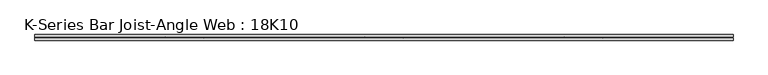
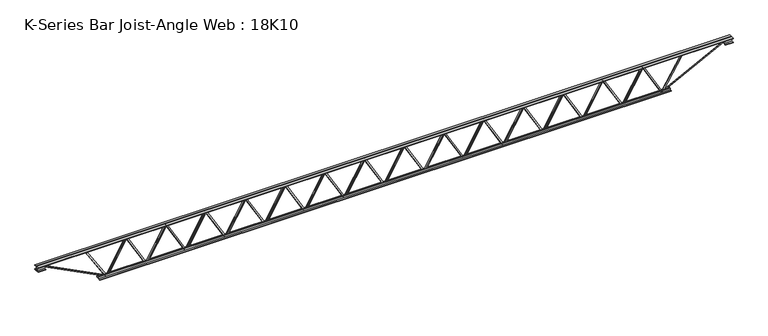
"""IFC4 building model written with IfcOpenShell, lengths in millimetres: beam geometry, K-Series Bar Joist-Angle Web : 18K10."""

from ifc_helpers import new_model, si_unit, frame, origin, place, context, project, spatial, polyline, outline, extrude, faceted_brep, source, transform, mapped, element, save


def k_series_bar_joist_angle_web_18k10_8fa36c72(model_context):
    return source(origin(), model_context, "Body", "SolidModel", [
        extrude(outline(polyline([(-4.75, 4.7624999), (-4.75, 0.0), (-17.45, 0.0), (-17.45, 4.7624999), (-4.75, 4.7624999)])), frame((3103.4571837, 0.0, -190.4), z_axis=(-0.4990982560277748, 0.0, 0.8665454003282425), x_axis=(0.0, -1.0, 0.0)), (0.0, 0.0, 1.0), 439.4461039),
        extrude(outline(polyline([(-225.325, 3135.4285714), (-206.275, 3135.4285714), (-206.275, 3134.5844446), (225.325, 2885.9987304), (225.325, 2867.7928571), (206.275, 2867.7928571), (206.275, 2874.9869839), (-225.325, 3123.5726982), (-225.325, 3135.4285714)])), frame((0.0, 0.0, 0.0), z_axis=(0.0, 1.0, 0.0), x_axis=(0.0, 0.0, 1.0)), (0.0, 0.0, 1.0), 4.75),
        faceted_brep([(2612.8571429, 0.0, -206.275), (2612.8571429, 0.0, -225.325), (2612.8571429, -4.75, -225.325), (2612.8571429, -4.75, -206.275), (2613.7012696, 0.0, -206.275), (2862.2869839, 0.0, 225.325), (2880.4928571, 0.0, 225.325), (2880.4928571, 0.0, 206.275), (2873.2987304, 0.0, 206.275), (2624.7130161, 0.0, -225.325), (2624.7130161, -4.75, -225.325), (2644.8285306, -4.75, -190.4), (2640.7016081, -4.75, -188.0230446), (2860.0283922, -4.75, 192.7769554), (2864.1553147, -4.75, 190.4), (2873.2987304, -4.75, 206.275), (2880.4928571, -4.75, 206.275), (2880.4928571, -4.75, 225.325), (2862.2869839, -4.75, 225.325), (2613.7012696, -4.75, -206.275), (2864.1553147, -17.4625, 190.4), (2644.8285306, -17.4625, -190.4), (2640.7016081, -17.4625, -188.0230446), (2860.0283922, -17.4625, 192.7769554)], [[[0, 1, 2, 3]], [[1, 0, 4, 5, 6, 7, 8, 9]], [[2, 1, 9, 10]], [[3, 2, 10, 11, 12, 13, 14, 15, 16, 17, 18, 19]], [[0, 3, 19, 4]], [[9, 8, 15, 14, 20, 21, 11, 10]], [[5, 4, 19, 18]], [[7, 6, 17, 16]], [[8, 7, 16, 15]], [[6, 5, 18, 17]], [[21, 22, 12, 11]], [[20, 14, 13, 23]], [[22, 21, 20, 23]], [[12, 22, 23, 13]]]),
        extrude(outline(polyline([(-4.75, 4.7625), (-4.75, 0.0), (-17.45, 0.0), (-17.45, 4.7625), (-4.75, 4.7625)])), frame((2580.8857551, 0.0, -190.4), z_axis=(-0.4990982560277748, 0.0, 0.8665454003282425), x_axis=(0.0, -1.0, 0.0)), (0.0, 0.0, 1.0), 439.4461039),
        extrude(outline(polyline([(-225.325, 2612.8571429), (-206.275, 2612.8571429), (-206.275, 2612.0130161), (225.325, 2363.4273018), (225.325, 2345.2214286), (206.275, 2345.2214286), (206.275, 2352.4155554), (-225.325, 2601.0012696), (-225.325, 2612.8571429)])), frame((0.0, 0.0, 0.0), z_axis=(0.0, 1.0, 0.0), x_axis=(0.0, 0.0, 1.0)), (0.0, 0.0, 1.0), 4.75),
        faceted_brep([(2090.2857143, 0.0, -206.275), (2090.2857143, 0.0, -225.325), (2090.2857143, -4.75, -225.325), (2090.2857143, -4.75, -206.275), (2091.1298411, 0.0, -206.275), (2339.7155554, 0.0, 225.325), (2357.9214286, 0.0, 225.325), (2357.9214286, 0.0, 206.275), (2350.7273018, 0.0, 206.275), (2102.1415875, 0.0, -225.325), (2102.1415875, -4.75, -225.325), (2122.257102, -4.75, -190.4), (2118.1301796, -4.75, -188.0230446), (2337.4569636, -4.75, 192.7769554), (2341.5838861, -4.75, 190.4), (2350.7273018, -4.75, 206.275), (2357.9214286, -4.75, 206.275), (2357.9214286, -4.75, 225.325), (2339.7155554, -4.75, 225.325), (2091.1298411, -4.75, -206.275), (2341.5838861, -17.4625, 190.4), (2122.257102, -17.4625, -190.4), (2118.1301796, -17.4625, -188.0230446), (2337.4569636, -17.4625, 192.7769554)], [[[0, 1, 2, 3]], [[1, 0, 4, 5, 6, 7, 8, 9]], [[2, 1, 9, 10]], [[3, 2, 10, 11, 12, 13, 14, 15, 16, 17, 18, 19]], [[0, 3, 19, 4]], [[9, 8, 15, 14, 20, 21, 11, 10]], [[5, 4, 19, 18]], [[7, 6, 17, 16]], [[8, 7, 16, 15]], [[6, 5, 18, 17]], [[21, 22, 12, 11]], [[20, 14, 13, 23]], [[22, 21, 20, 23]], [[12, 22, 23, 13]]]),
        extrude(outline(polyline([(-4.75, 4.7625), (-4.75, 0.0), (-17.45, 0.0), (-17.45, 4.7625), (-4.75, 4.7625)])), frame((2058.3143265, 0.0, -190.4), z_axis=(-0.4990982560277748, 0.0, 0.8665454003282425), x_axis=(0.0, -1.0, 0.0)), (0.0, 0.0, 1.0), 439.4461039),
        extrude(outline(polyline([(-225.325, 2090.2857143), (-206.275, 2090.2857143), (-206.275, 2089.4415875), (225.325, 1840.8558732), (225.325, 1822.65), (206.275, 1822.65), (206.275, 1829.8441268), (-225.325, 2078.4298411), (-225.325, 2090.2857143)])), frame((0.0, 0.0, 0.0), z_axis=(0.0, 1.0, 0.0), x_axis=(0.0, 0.0, 1.0)), (0.0, 0.0, 1.0), 4.75),
        faceted_brep([(1567.7142857, 0.0, -206.275), (1567.7142857, 0.0, -225.325), (1567.7142857, -4.75, -225.325), (1567.7142857, -4.75, -206.275), (1568.5584125, 0.0, -206.275), (1817.1441268, 0.0, 225.325), (1835.35, 0.0, 225.325), (1835.35, 0.0, 206.275), (1828.1558732, 0.0, 206.275), (1579.5701589, 0.0, -225.325), (1579.5701589, -4.75, -225.325), (1599.6856735, -4.75, -190.4), (1595.558751, -4.75, -188.0230446), (1814.8855351, -4.75, 192.7769554), (1819.0124575, -4.75, 190.4), (1828.1558732, -4.75, 206.275), (1835.35, -4.75, 206.275), (1835.35, -4.75, 225.325), (1817.1441268, -4.75, 225.325), (1568.5584125, -4.75, -206.275), (1819.0124575, -17.4625, 190.4), (1599.6856735, -17.4625, -190.4), (1595.558751, -17.4625, -188.0230446), (1814.8855351, -17.4625, 192.7769554)], [[[0, 1, 2, 3]], [[1, 0, 4, 5, 6, 7, 8, 9]], [[2, 1, 9, 10]], [[3, 2, 10, 11, 12, 13, 14, 15, 16, 17, 18, 19]], [[0, 3, 19, 4]], [[9, 8, 15, 14, 20, 21, 11, 10]], [[5, 4, 19, 18]], [[7, 6, 17, 16]], [[8, 7, 16, 15]], [[6, 5, 18, 17]], [[21, 22, 12, 11]], [[20, 14, 13, 23]], [[22, 21, 20, 23]], [[12, 22, 23, 13]]]),
        extrude(outline(polyline([(-4.75, 4.7624999), (-4.75, 0.0), (-17.45, 0.0), (-17.45, 4.7624999), (-4.75, 4.7624999)])), frame((1535.742898, 0.0, -190.4), z_axis=(-0.4990982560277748, 0.0, 0.8665454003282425), x_axis=(0.0, -1.0, 0.0)), (0.0, 0.0, 1.0), 439.4461039),
        extrude(outline(polyline([(-225.325, 1567.7142857), (-206.275, 1567.7142857), (-206.275, 1566.8701589), (225.325, 1318.2844446), (225.325, 1300.0785714), (206.275, 1300.0785714), (206.275, 1307.2726982), (-225.325, 1555.8584125), (-225.325, 1567.7142857)])), frame((0.0, 0.0, 0.0), z_axis=(0.0, 1.0, 0.0), x_axis=(0.0, 0.0, 1.0)), (0.0, 0.0, 1.0), 4.75),
        faceted_brep([(1045.1428571, 0.0, -206.275), (1045.1428571, 0.0, -225.325), (1045.1428571, -4.75, -225.325), (1045.1428571, -4.75, -206.275), (1045.9869839, 0.0, -206.275), (1294.5726982, 0.0, 225.325), (1312.7785714, 0.0, 225.325), (1312.7785714, 0.0, 206.275), (1305.5844446, 0.0, 206.275), (1056.9987304, 0.0, -225.325), (1056.9987304, -4.75, -225.325), (1077.1142449, -4.75, -190.4), (1072.9873224, -4.75, -188.0230446), (1292.3141065, -4.75, 192.7769554), (1296.441029, -4.75, 190.4), (1305.5844446, -4.75, 206.275), (1312.7785714, -4.75, 206.275), (1312.7785714, -4.75, 225.325), (1294.5726982, -4.75, 225.325), (1045.9869839, -4.75, -206.275), (1296.441029, -17.4625, 190.4), (1077.1142449, -17.4625, -190.4), (1072.9873224, -17.4625, -188.0230446), (1292.3141065, -17.4625, 192.7769554)], [[[0, 1, 2, 3]], [[1, 0, 4, 5, 6, 7, 8, 9]], [[2, 1, 9, 10]], [[3, 2, 10, 11, 12, 13, 14, 15, 16, 17, 18, 19]], [[0, 3, 19, 4]], [[9, 8, 15, 14, 20, 21, 11, 10]], [[5, 4, 19, 18]], [[7, 6, 17, 16]], [[8, 7, 16, 15]], [[6, 5, 18, 17]], [[21, 22, 12, 11]], [[20, 14, 13, 23]], [[22, 21, 20, 23]], [[12, 22, 23, 13]]]),
        extrude(outline(polyline([(-4.75, 4.7625), (-4.75, 0.0), (-17.45, 0.0), (-17.45, 4.7625), (-4.75, 4.7625)])), frame((1013.1714694, 0.0, -190.4), z_axis=(-0.4990982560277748, 0.0, 0.8665454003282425), x_axis=(0.0, -1.0, 0.0)), (0.0, 0.0, 1.0), 439.4461039),
        extrude(outline(polyline([(-225.325, 1045.1428571), (-206.275, 1045.1428571), (-206.275, 1044.2987304), (225.325, 795.7130161), (225.325, 777.5071429), (206.275, 777.5071429), (206.275, 784.7012696), (-225.325, 1033.2869839), (-225.325, 1045.1428571)])), frame((0.0, 0.0, 0.0), z_axis=(0.0, 1.0, 0.0), x_axis=(0.0, 0.0, 1.0)), (0.0, 0.0, 1.0), 4.75),
        faceted_brep([(522.5714286, 0.0, -206.275), (522.5714286, 0.0, -225.325), (522.5714286, -4.75, -225.325), (522.5714286, -4.75, -206.275), (523.4155554, 0.0, -206.275), (772.0012696, 0.0, 225.325), (790.2071429, 0.0, 225.325), (790.2071429, 0.0, 206.275), (783.0130161, 0.0, 206.275), (534.4273018, 0.0, -225.325), (534.4273018, -4.75, -225.325), (554.5428163, -4.75, -190.4), (550.4158939, -4.75, -188.0230446), (769.7426779, -4.75, 192.7769554), (773.8696004, -4.75, 190.4), (783.0130161, -4.75, 206.275), (790.2071429, -4.75, 206.275), (790.2071429, -4.75, 225.325), (772.0012696, -4.75, 225.325), (523.4155554, -4.75, -206.275), (773.8696004, -17.4625, 190.4), (554.5428163, -17.4625, -190.4), (550.4158939, -17.4625, -188.0230446), (769.7426779, -17.4625, 192.7769554)], [[[0, 1, 2, 3]], [[1, 0, 4, 5, 6, 7, 8, 9]], [[2, 1, 9, 10]], [[3, 2, 10, 11, 12, 13, 14, 15, 16, 17, 18, 19]], [[0, 3, 19, 4]], [[9, 8, 15, 14, 20, 21, 11, 10]], [[5, 4, 19, 18]], [[7, 6, 17, 16]], [[8, 7, 16, 15]], [[6, 5, 18, 17]], [[21, 22, 12, 11]], [[20, 14, 13, 23]], [[22, 21, 20, 23]], [[12, 22, 23, 13]]]),
        extrude(outline(polyline([(-4.75, 4.7625), (-4.75, 0.0), (-17.45, 0.0), (-17.45, 4.7625), (-4.75, 4.7625)])), frame((490.6000408, 0.0, -190.4), z_axis=(-0.4990982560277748, 0.0, 0.8665454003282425), x_axis=(0.0, -1.0, 0.0)), (0.0, 0.0, 1.0), 439.4461039),
        extrude(outline(polyline([(-225.325, 522.5714286), (-206.275, 522.5714286), (-206.275, 521.7273018), (225.325, 273.1415875), (225.325, 254.9357143), (206.275, 254.9357143), (206.275, 262.1298411), (-225.325, 510.7155554), (-225.325, 522.5714286)])), frame((0.0, 0.0, 0.0), z_axis=(0.0, 1.0, 0.0), x_axis=(0.0, 0.0, 1.0)), (0.0, 0.0, 1.0), 4.75),
        faceted_brep([(0.0, 0.0, -206.275), (0.0, 0.0, -225.325), (0.0, -4.75, -225.325), (0.0, -4.75, -206.275), (0.8441268, 0.0, -206.275), (249.4298411, 0.0, 225.325), (267.6357143, 0.0, 225.325), (267.6357143, 0.0, 206.275), (260.4415875, 0.0, 206.275), (11.8558732, 0.0, -225.325), (11.8558732, -4.75, -225.325), (31.9713877, -4.75, -190.4), (27.8444653, -4.75, -188.0230446), (247.1712493, -4.75, 192.7769554), (251.2981718, -4.75, 190.4), (260.4415875, -4.75, 206.275), (267.6357143, -4.75, 206.275), (267.6357143, -4.75, 225.325), (249.4298411, -4.75, 225.325), (0.8441268, -4.75, -206.275), (251.2981718, -17.4625, 190.4), (31.9713877, -17.4625, -190.4), (27.8444653, -17.4625, -188.0230446), (247.1712493, -17.4625, 192.7769554)], [[[0, 1, 2, 3]], [[1, 0, 4, 5, 6, 7, 8, 9]], [[2, 1, 9, 10]], [[3, 2, 10, 11, 12, 13, 14, 15, 16, 17, 18, 19]], [[0, 3, 19, 4]], [[9, 8, 15, 14, 20, 21, 11, 10]], [[5, 4, 19, 18]], [[7, 6, 17, 16]], [[8, 7, 16, 15]], [[6, 5, 18, 17]], [[21, 22, 12, 11]], [[20, 14, 13, 23]], [[22, 21, 20, 23]], [[12, 22, 23, 13]]]),
        extrude(outline(polyline([(-4.75, 4.7624999), (-4.75, 0.0), (-17.45, 0.0), (-17.45, 4.7624999), (-4.75, 4.7624999)])), frame((-31.9713877, 0.0, -190.4), z_axis=(-0.4990982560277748, 0.0, 0.8665454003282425), x_axis=(0.0, -1.0, 0.0)), (0.0, 0.0, 1.0), 439.4461039),
        extrude(outline(polyline([(-225.325, 0.0), (-206.275, 0.0), (-206.275, -0.8441268), (225.325, -249.4298411), (225.325, -267.6357143), (206.275, -267.6357143), (206.275, -260.4415875), (-225.325, -11.8558732), (-225.325, 0.0)])), frame((0.0, 0.0, 0.0), z_axis=(0.0, 1.0, 0.0), x_axis=(0.0, 0.0, 1.0)), (0.0, 0.0, 1.0), 4.75),
        faceted_brep([(-522.5714286, 0.0, -206.275), (-522.5714286, 0.0, -225.325), (-522.5714286, -4.75, -225.325), (-522.5714286, -4.75, -206.275), (-521.7273018, 0.0, -206.275), (-273.1415875, 0.0, 225.325), (-254.9357143, 0.0, 225.325), (-254.9357143, 0.0, 206.275), (-262.1298411, 0.0, 206.275), (-510.7155554, 0.0, -225.325), (-510.7155554, -4.75, -225.325), (-490.6000408, -4.75, -190.4), (-494.7269633, -4.75, -188.0230446), (-275.4001792, -4.75, 192.7769554), (-271.2732568, -4.75, 190.4), (-262.1298411, -4.75, 206.275), (-254.9357143, -4.75, 206.275), (-254.9357143, -4.75, 225.325), (-273.1415875, -4.75, 225.325), (-521.7273018, -4.75, -206.275), (-271.2732568, -17.4625, 190.4), (-490.6000408, -17.4625, -190.4), (-494.7269633, -17.4625, -188.0230446), (-275.4001792, -17.4625, 192.7769554)], [[[0, 1, 2, 3]], [[1, 0, 4, 5, 6, 7, 8, 9]], [[2, 1, 9, 10]], [[3, 2, 10, 11, 12, 13, 14, 15, 16, 17, 18, 19]], [[0, 3, 19, 4]], [[9, 8, 15, 14, 20, 21, 11, 10]], [[5, 4, 19, 18]], [[7, 6, 17, 16]], [[8, 7, 16, 15]], [[6, 5, 18, 17]], [[21, 22, 12, 11]], [[20, 14, 13, 23]], [[22, 21, 20, 23]], [[12, 22, 23, 13]]]),
        extrude(outline(polyline([(-4.75, 4.7624999), (-4.75, 0.0), (-17.45, 0.0), (-17.45, 4.7624999), (-4.75, 4.7624999)])), frame((-554.5428163, 0.0, -190.4), z_axis=(-0.4990982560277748, 0.0, 0.8665454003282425), x_axis=(0.0, -1.0, 0.0)), (0.0, 0.0, 1.0), 439.4461039),
        extrude(outline(polyline([(-225.325, -522.5714286), (-206.275, -522.5714286), (-206.275, -523.4155554), (225.325, -772.0012696), (225.325, -790.2071429), (206.275, -790.2071429), (206.275, -783.0130161), (-225.325, -534.4273018), (-225.325, -522.5714286)])), frame((0.0, 0.0, 0.0), z_axis=(0.0, 1.0, 0.0), x_axis=(0.0, 0.0, 1.0)), (0.0, 0.0, 1.0), 4.75),
        faceted_brep([(-1045.1428571, 0.0, -206.275), (-1045.1428571, 0.0, -225.325), (-1045.1428571, -4.75, -225.325), (-1045.1428571, -4.75, -206.275), (-1044.2987304, 0.0, -206.275), (-795.7130161, 0.0, 225.325), (-777.5071429, 0.0, 225.325), (-777.5071429, 0.0, 206.275), (-784.7012696, 0.0, 206.275), (-1033.2869839, 0.0, -225.325), (-1033.2869839, -4.75, -225.325), (-1013.1714694, -4.75, -190.4), (-1017.2983919, -4.75, -188.0230446), (-797.9716078, -4.75, 192.7769554), (-793.8446853, -4.75, 190.4), (-784.7012696, -4.75, 206.275), (-777.5071429, -4.75, 206.275), (-777.5071429, -4.75, 225.325), (-795.7130161, -4.75, 225.325), (-1044.2987304, -4.75, -206.275), (-793.8446853, -17.4625, 190.4), (-1013.1714694, -17.4625, -190.4), (-1017.2983919, -17.4625, -188.0230446), (-797.9716078, -17.4625, 192.7769554)], [[[0, 1, 2, 3]], [[1, 0, 4, 5, 6, 7, 8, 9]], [[2, 1, 9, 10]], [[3, 2, 10, 11, 12, 13, 14, 15, 16, 17, 18, 19]], [[0, 3, 19, 4]], [[9, 8, 15, 14, 20, 21, 11, 10]], [[5, 4, 19, 18]], [[7, 6, 17, 16]], [[8, 7, 16, 15]], [[6, 5, 18, 17]], [[21, 22, 12, 11]], [[20, 14, 13, 23]], [[22, 21, 20, 23]], [[12, 22, 23, 13]]]),
        extrude(outline(polyline([(-4.75, 4.7625), (-4.75, 0.0), (-17.45, 0.0), (-17.45, 4.7625), (-4.75, 4.7625)])), frame((-1077.1142449, 0.0, -190.4), z_axis=(-0.4990982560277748, 0.0, 0.8665454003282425), x_axis=(0.0, -1.0, 0.0)), (0.0, 0.0, 1.0), 439.4461039),
        extrude(outline(polyline([(-225.325, -1045.1428571), (-206.275, -1045.1428571), (-206.275, -1045.9869839), (225.325, -1294.5726982), (225.325, -1312.7785714), (206.275, -1312.7785714), (206.275, -1305.5844446), (-225.325, -1056.9987304), (-225.325, -1045.1428571)])), frame((0.0, 0.0, 0.0), z_axis=(0.0, 1.0, 0.0), x_axis=(0.0, 0.0, 1.0)), (0.0, 0.0, 1.0), 4.75),
        faceted_brep([(-1567.7142857, 0.0, -206.275), (-1567.7142857, 0.0, -225.325), (-1567.7142857, -4.75, -225.325), (-1567.7142857, -4.75, -206.275), (-1566.8701589, 0.0, -206.275), (-1318.2844446, 0.0, 225.325), (-1300.0785714, 0.0, 225.325), (-1300.0785714, 0.0, 206.275), (-1307.2726982, 0.0, 206.275), (-1555.8584125, 0.0, -225.325), (-1555.8584125, -4.75, -225.325), (-1535.742898, -4.75, -190.4), (-1539.8698204, -4.75, -188.0230446), (-1320.5430364, -4.75, 192.7769554), (-1316.4161139, -4.75, 190.4), (-1307.2726982, -4.75, 206.275), (-1300.0785714, -4.75, 206.275), (-1300.0785714, -4.75, 225.325), (-1318.2844446, -4.75, 225.325), (-1566.8701589, -4.75, -206.275), (-1316.4161139, -17.4625, 190.4), (-1535.742898, -17.4625, -190.4), (-1539.8698204, -17.4625, -188.0230446), (-1320.5430364, -17.4625, 192.7769554)], [[[0, 1, 2, 3]], [[1, 0, 4, 5, 6, 7, 8, 9]], [[2, 1, 9, 10]], [[3, 2, 10, 11, 12, 13, 14, 15, 16, 17, 18, 19]], [[0, 3, 19, 4]], [[9, 8, 15, 14, 20, 21, 11, 10]], [[5, 4, 19, 18]], [[7, 6, 17, 16]], [[8, 7, 16, 15]], [[6, 5, 18, 17]], [[21, 22, 12, 11]], [[20, 14, 13, 23]], [[22, 21, 20, 23]], [[12, 22, 23, 13]]]),
        extrude(outline(polyline([(-4.75, 4.7625), (-4.75, 0.0), (-17.45, 0.0), (-17.45, 4.7625), (-4.75, 4.7625)])), frame((-1599.6856735, 0.0, -190.4), z_axis=(-0.4990982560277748, 0.0, 0.8665454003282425), x_axis=(0.0, -1.0, 0.0)), (0.0, 0.0, 1.0), 439.4461039),
        extrude(outline(polyline([(-225.325, -1567.7142857), (-206.275, -1567.7142857), (-206.275, -1568.5584125), (225.325, -1817.1441268), (225.325, -1835.35), (206.275, -1835.35), (206.275, -1828.1558732), (-225.325, -1579.5701589), (-225.325, -1567.7142857)])), frame((0.0, 0.0, 0.0), z_axis=(0.0, 1.0, 0.0), x_axis=(0.0, 0.0, 1.0)), (0.0, 0.0, 1.0), 4.75),
        faceted_brep([(-2090.2857143, 0.0, -206.275), (-2090.2857143, 0.0, -225.325), (-2090.2857143, -4.75, -225.325), (-2090.2857143, -4.75, -206.275), (-2089.4415875, 0.0, -206.275), (-1840.8558732, 0.0, 225.325), (-1822.65, 0.0, 225.325), (-1822.65, 0.0, 206.275), (-1829.8441268, 0.0, 206.275), (-2078.4298411, 0.0, -225.325), (-2078.4298411, -4.75, -225.325), (-2058.3143265, -4.75, -190.4), (-2062.441249, -4.75, -188.0230446), (-1843.1144649, -4.75, 192.7769554), (-1838.9875425, -4.75, 190.4), (-1829.8441268, -4.75, 206.275), (-1822.65, -4.75, 206.275), (-1822.65, -4.75, 225.325), (-1840.8558732, -4.75, 225.325), (-2089.4415875, -4.75, -206.275), (-1838.9875425, -17.4625, 190.4), (-2058.3143265, -17.4625, -190.4), (-2062.441249, -17.4625, -188.0230446), (-1843.1144649, -17.4625, 192.7769554)], [[[0, 1, 2, 3]], [[1, 0, 4, 5, 6, 7, 8, 9]], [[2, 1, 9, 10]], [[3, 2, 10, 11, 12, 13, 14, 15, 16, 17, 18, 19]], [[0, 3, 19, 4]], [[9, 8, 15, 14, 20, 21, 11, 10]], [[5, 4, 19, 18]], [[7, 6, 17, 16]], [[8, 7, 16, 15]], [[6, 5, 18, 17]], [[21, 22, 12, 11]], [[20, 14, 13, 23]], [[22, 21, 20, 23]], [[12, 22, 23, 13]]]),
        extrude(outline(polyline([(-4.75, 4.7624999), (-4.75, 0.0), (-17.45, 0.0), (-17.45, 4.7624999), (-4.75, 4.7624999)])), frame((-2122.257102, 0.0, -190.4), z_axis=(-0.4990982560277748, 0.0, 0.8665454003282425), x_axis=(0.0, -1.0, 0.0)), (0.0, 0.0, 1.0), 439.4461039),
        extrude(outline(polyline([(-225.325, -2090.2857143), (-206.275, -2090.2857143), (-206.275, -2091.1298411), (225.325, -2339.7155554), (225.325, -2357.9214286), (206.275, -2357.9214286), (206.275, -2350.7273018), (-225.325, -2102.1415875), (-225.325, -2090.2857143)])), frame((0.0, 0.0, 0.0), z_axis=(0.0, 1.0, 0.0), x_axis=(0.0, 0.0, 1.0)), (0.0, 0.0, 1.0), 4.75),
        faceted_brep([(-2612.8571429, 0.0, -206.275), (-2612.8571429, 0.0, -225.325), (-2612.8571429, -4.75, -225.325), (-2612.8571429, -4.75, -206.275), (-2612.0130161, 0.0, -206.275), (-2363.4273018, 0.0, 225.325), (-2345.2214286, 0.0, 225.325), (-2345.2214286, 0.0, 206.275), (-2352.4155554, 0.0, 206.275), (-2601.0012696, 0.0, -225.325), (-2601.0012696, -4.75, -225.325), (-2580.8857551, -4.75, -190.4), (-2585.0126776, -4.75, -188.0230446), (-2365.6858935, -4.75, 192.7769554), (-2361.558971, -4.75, 190.4), (-2352.4155554, -4.75, 206.275), (-2345.2214286, -4.75, 206.275), (-2345.2214286, -4.75, 225.325), (-2363.4273018, -4.75, 225.325), (-2612.0130161, -4.75, -206.275), (-2361.558971, -17.4625, 190.4), (-2580.8857551, -17.4625, -190.4), (-2585.0126776, -17.4625, -188.0230446), (-2365.6858935, -17.4625, 192.7769554)], [[[0, 1, 2, 3]], [[1, 0, 4, 5, 6, 7, 8, 9]], [[2, 1, 9, 10]], [[3, 2, 10, 11, 12, 13, 14, 15, 16, 17, 18, 19]], [[0, 3, 19, 4]], [[9, 8, 15, 14, 20, 21, 11, 10]], [[5, 4, 19, 18]], [[7, 6, 17, 16]], [[8, 7, 16, 15]], [[6, 5, 18, 17]], [[21, 22, 12, 11]], [[20, 14, 13, 23]], [[22, 21, 20, 23]], [[12, 22, 23, 13]]]),
        extrude(outline(polyline([(-4.75, 4.7625), (-4.75, 0.0), (-17.45, 0.0), (-17.45, 4.7625), (-4.75, 4.7625)])), frame((-2644.8285306, 0.0, -190.4), z_axis=(-0.4990982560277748, 0.0, 0.8665454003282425), x_axis=(0.0, -1.0, 0.0)), (0.0, 0.0, 1.0), 439.4461039),
        extrude(outline(polyline([(-225.325, -2612.8571429), (-206.275, -2612.8571429), (-206.275, -2613.7012696), (225.325, -2862.2869839), (225.325, -2880.4928571), (206.275, -2880.4928571), (206.275, -2873.2987304), (-225.325, -2624.7130161), (-225.325, -2612.8571429)])), frame((0.0, 0.0, 0.0), z_axis=(0.0, 1.0, 0.0), x_axis=(0.0, 0.0, 1.0)), (0.0, 0.0, 1.0), 4.75),
        faceted_brep([(-3135.4285714, 0.0, -206.275), (-3135.4285714, 0.0, -225.325), (-3135.4285714, -4.75, -225.325), (-3135.4285714, -4.75, -206.275), (-3134.5844446, 0.0, -206.275), (-2885.9987304, 0.0, 225.325), (-2867.7928571, 0.0, 225.325), (-2867.7928571, 0.0, 206.275), (-2874.9869839, 0.0, 206.275), (-3123.5726982, 0.0, -225.325), (-3123.5726982, -4.75, -225.325), (-3103.4571837, -4.75, -190.4), (-3107.5841061, -4.75, -188.0230446), (-2888.2573221, -4.75, 192.7769554), (-2884.1303996, -4.75, 190.4), (-2874.9869839, -4.75, 206.275), (-2867.7928571, -4.75, 206.275), (-2867.7928571, -4.75, 225.325), (-2885.9987304, -4.75, 225.325), (-3134.5844446, -4.75, -206.275), (-2884.1303996, -17.4625, 190.4), (-3103.4571837, -17.4625, -190.4), (-3107.5841061, -17.4625, -188.0230446), (-2888.2573221, -17.4625, 192.7769554)], [[[0, 1, 2, 3]], [[1, 0, 4, 5, 6, 7, 8, 9]], [[2, 1, 9, 10]], [[3, 2, 10, 11, 12, 13, 14, 15, 16, 17, 18, 19]], [[0, 3, 19, 4]], [[9, 8, 15, 14, 20, 21, 11, 10]], [[5, 4, 19, 18]], [[7, 6, 17, 16]], [[8, 7, 16, 15]], [[6, 5, 18, 17]], [[21, 22, 12, 11]], [[20, 14, 13, 23]], [[22, 21, 20, 23]], [[12, 22, 23, 13]]]),
        extrude(outline(polyline([(-4.75, 4.7624999), (-4.75, 0.0), (-17.45, 0.0), (-17.45, 4.7624999), (-4.75, 4.7624999)])), frame((3626.0286123, 0.0, -190.4), z_axis=(-0.4990982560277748, 0.0, 0.8665454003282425), x_axis=(0.0, -1.0, 0.0)), (0.0, 0.0, 1.0), 439.4461039),
        extrude(outline(polyline([(-225.325, 3658.0), (-206.275, 3658.0), (-206.275, 3657.1558732), (225.325, 3408.5701589), (225.325, 3390.3642857), (206.275, 3390.3642857), (206.275, 3397.5584125), (-225.325, 3646.1441268), (-225.325, 3658.0)])), frame((0.0, 0.0, 0.0), z_axis=(0.0, 1.0, 0.0), x_axis=(0.0, 0.0, 1.0)), (0.0, 0.0, 1.0), 4.75),
        faceted_brep([(3135.4285714, 0.0, -206.275), (3135.4285714, 0.0, -225.325), (3135.4285714, -4.75, -225.325), (3135.4285714, -4.75, -206.275), (3136.2726982, 0.0, -206.275), (3384.8584125, 0.0, 225.325), (3403.0642857, 0.0, 225.325), (3403.0642857, 0.0, 206.275), (3395.8701589, 0.0, 206.275), (3147.2844446, 0.0, -225.325), (3147.2844446, -4.75, -225.325), (3167.3999592, -4.75, -190.4), (3163.2730367, -4.75, -188.0230446), (3382.5998208, -4.75, 192.7769554), (3386.7267432, -4.75, 190.4), (3395.8701589, -4.75, 206.275), (3403.0642857, -4.75, 206.275), (3403.0642857, -4.75, 225.325), (3384.8584125, -4.75, 225.325), (3136.2726982, -4.75, -206.275), (3386.7267432, -17.4625, 190.4), (3167.3999592, -17.4625, -190.4), (3163.2730367, -17.4625, -188.0230446), (3382.5998208, -17.4625, 192.7769554)], [[[0, 1, 2, 3]], [[1, 0, 4, 5, 6, 7, 8, 9]], [[2, 1, 9, 10]], [[3, 2, 10, 11, 12, 13, 14, 15, 16, 17, 18, 19]], [[0, 3, 19, 4]], [[9, 8, 15, 14, 20, 21, 11, 10]], [[5, 4, 19, 18]], [[7, 6, 17, 16]], [[8, 7, 16, 15]], [[6, 5, 18, 17]], [[21, 22, 12, 11]], [[20, 14, 13, 23]], [[22, 21, 20, 23]], [[12, 22, 23, 13]]]),
        extrude(outline(polyline([(-4.75, 4.7625), (-4.75, 0.0), (-17.45, 0.0), (-17.45, 4.7625), (-4.75, 4.7625)])), frame((-3167.3999592, 0.0, -190.4), z_axis=(-0.4990982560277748, 0.0, 0.8665454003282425), x_axis=(0.0, -1.0, 0.0)), (0.0, 0.0, 1.0), 439.4461039),
        extrude(outline(polyline([(-225.325, -3135.4285714), (-206.275, -3135.4285714), (-206.275, -3136.2726982), (225.325, -3384.8584125), (225.325, -3403.0642857), (206.275, -3403.0642857), (206.275, -3395.8701589), (-225.325, -3147.2844446), (-225.325, -3135.4285714)])), frame((0.0, 0.0, 0.0), z_axis=(0.0, 1.0, 0.0), x_axis=(0.0, 0.0, 1.0)), (0.0, 0.0, 1.0), 4.75),
        faceted_brep([(-3658.0, 0.0, -206.275), (-3658.0, 0.0, -225.325), (-3658.0, -4.75, -225.325), (-3658.0, -4.75, -206.275), (-3657.1558732, 0.0, -206.275), (-3408.5701589, 0.0, 225.325), (-3390.3642857, 0.0, 225.325), (-3390.3642857, 0.0, 206.275), (-3397.5584125, 0.0, 206.275), (-3646.1441268, 0.0, -225.325), (-3646.1441268, -4.75, -225.325), (-3626.0286123, -4.75, -190.4), (-3630.1555347, -4.75, -188.0230446), (-3410.8287507, -4.75, 192.7769554), (-3406.7018282, -4.75, 190.4), (-3397.5584125, -4.75, 206.275), (-3390.3642857, -4.75, 206.275), (-3390.3642857, -4.75, 225.325), (-3408.5701589, -4.75, 225.325), (-3657.1558732, -4.75, -206.275), (-3406.7018282, -17.4625, 190.4), (-3626.0286123, -17.4625, -190.4), (-3630.1555347, -17.4625, -188.0230446), (-3410.8287507, -17.4625, 192.7769554)], [[[0, 1, 2, 3]], [[1, 0, 4, 5, 6, 7, 8, 9]], [[2, 1, 9, 10]], [[3, 2, 10, 11, 12, 13, 14, 15, 16, 17, 18, 19]], [[0, 3, 19, 4]], [[9, 8, 15, 14, 20, 21, 11, 10]], [[5, 4, 19, 18]], [[7, 6, 17, 16]], [[8, 7, 16, 15]], [[6, 5, 18, 17]], [[21, 22, 12, 11]], [[20, 14, 13, 23]], [[22, 21, 20, 23]], [[12, 22, 23, 13]]]),
        extrude(outline(polyline([(4.75, 228.5), (36.75, 228.5), (36.75, 222.0), (11.25, 222.0), (11.25, 196.5), (4.75, 196.5), (4.75, 228.5)])), frame((-4572.0, 0.0, 0.0), z_axis=(1.0, 0.0, 0.0), x_axis=(0.0, 1.0, 0.0)), (0.0, 0.0, 1.0), 9144.0),
        extrude(outline(polyline([(-4.75, 228.5), (-4.75, 196.5), (-11.25, 196.5), (-11.25, 222.0), (-36.75, 222.0), (-36.75, 228.5), (-4.75, 228.5)])), frame((-4572.0, 0.0, 0.0), z_axis=(1.0, 0.0, 0.0), x_axis=(0.0, 1.0, 0.0)), (0.0, 0.0, 1.0), 9144.0),
        extrude(outline(polyline([(4.75, -228.5), (4.75, -196.5), (11.25, -196.5), (11.25, -222.0), (36.75, -222.0), (36.75, -228.5), (4.75, -228.5)])), frame((-3758.0, 0.0, 0.0), z_axis=(1.0, 0.0, 0.0), x_axis=(0.0, 1.0, 0.0)), (0.0, 0.0, 1.0), 7516.0),
        extrude(outline(polyline([(-4.75, -228.5), (-36.75, -228.5), (-36.75, -222.0), (-11.25, -222.0), (-11.25, -196.5), (-4.75, -196.5), (-4.75, -228.5)])), frame((-3758.0, 0.0, 0.0), z_axis=(1.0, 0.0, 0.0), x_axis=(0.0, 1.0, 0.0)), (0.0, 0.0, 1.0), 7516.0),
        extrude(outline(polyline([(4.75, 165.0), (4.75, 196.5), (11.25, 196.5), (11.25, 171.5), (36.75, 171.5), (36.75, 165.0), (4.75, 165.0)])), frame((4472.0, 0.0, 0.0), z_axis=(1.0, 0.0, 0.0), x_axis=(0.0, 1.0, 0.0)), (0.0, 0.0, 1.0), 100.0),
        extrude(outline(polyline([(-4.75, 165.0), (-36.75, 165.0), (-36.75, 171.5), (-11.25, 171.5), (-11.25, 196.5), (-4.75, 196.5), (-4.75, 165.0)])), frame((4472.0, 0.0, 0.0), z_axis=(1.0, 0.0, 0.0), x_axis=(0.0, 1.0, 0.0)), (0.0, 0.0, 1.0), 100.0),
        extrude(outline(polyline([(-4.75, 165.0), (-36.75, 165.0), (-36.75, 171.5), (-11.25, 171.5), (-11.25, 196.5), (-4.75, 196.5), (-4.75, 165.0)])), frame((-4572.0, 0.0, 0.0), z_axis=(1.0, 0.0, 0.0), x_axis=(0.0, 1.0, 0.0)), (0.0, 0.0, 1.0), 100.0),
        extrude(outline(polyline([(36.75, 165.0), (4.75, 165.0), (4.75, 196.5), (11.25, 196.5), (11.25, 171.5), (36.75, 171.5), (36.75, 165.0)])), frame((-4572.0, 0.0, 0.0), z_axis=(1.0, 0.0, 0.0), x_axis=(0.0, 1.0, 0.0)), (0.0, 0.0, 1.0), 100.0),
        extrude(outline(polyline([(219.4566712, -3939.2428571), (200.4066712, -3939.2428571), (200.4066712, -3931.5670103), (-226.9275018, -3665.6783639), (-216.8635739, -3649.5036968), (219.4566712, -3920.9835051), (219.4566712, -3939.2428571)])), frame((0.0, 0.0, 0.0), z_axis=(0.0, 1.0, 0.0), x_axis=(0.0, 0.0, 1.0)), (0.0, 0.0, 1.0), 4.7625),
        extrude(outline(polyline([(-4.7625, -10.5646147), (-4.7625, 8.4853854), (0.0, 8.4853854), (0.0, -10.5646147), (-4.7625, -10.5646147)])), frame((3658.0, 0.0, -222.15), z_axis=(0.5294589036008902, 0.0, 0.8483355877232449), x_axis=(0.0, -1.0, 0.0)), (0.0, 0.0, 1.0), 493.4957416),
        extrude(outline(polyline([(-226.3740718, -3660.172491), (-217.9259282, -3655.827509), (201.25, -4470.8500948), (201.25, -4572.0), (191.75, -4572.0), (191.75, -4473.1499052), (-226.3740718, -3660.172491)])), frame((0.0, -4.75, 0.0), z_axis=(0.0, 1.0, 0.0), x_axis=(0.0, 0.0, 1.0)), (0.0, 0.0, 1.0), 9.5),
        extrude(outline(polyline([(0.0, -9.5), (0.0, 0.0), (915.3490168, 0.0), (915.3490168, -9.5), (0.0, -9.5)])), frame((4474.172491, -4.75, 192.2759282), z_axis=(-0.45736652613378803, 0.0, 0.8892782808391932), x_axis=(-0.8892782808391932, 0.0, -0.45736652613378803)), (0.0, 0.0, 1.0), 9.5),
    ])


if __name__ == "__main__":
    model = new_model("IFC4")
    model_context = context("Model", 3, world=origin())
    ifc_project = project(units=[si_unit("LENGTHUNIT", "METRE", prefix="MILLI")], contexts=[model_context])
    site = spatial("IfcSite", under=ifc_project)
    building = spatial("IfcBuilding", under=site)
    placement = place(None, origin())
    k_series_bar_joist_angle_web_18k10_shape = k_series_bar_joist_angle_web_18k10_8fa36c72(model_context)
    element("IfcBeam", 1, ObjectType="K-Series Bar Joist-Angle Web : 18K10", at=placement, inside=building, context=model_context, shape_type="MappedRepresentation", body=[
        mapped(k_series_bar_joist_angle_web_18k10_shape, transform((0.0, 0.0, 0.0), x_axis=(1.0, 0.0, 0.0), y_axis=(0.0, 1.0, 0.0), z_axis=(0.0, 0.0, 1.0))),
    ])
    save(model, "model.ifc")
